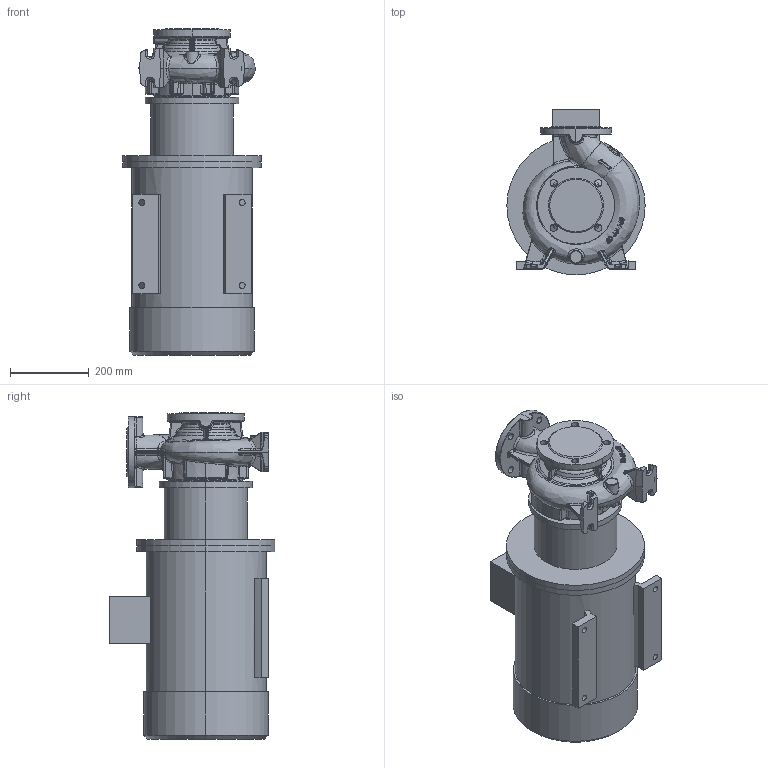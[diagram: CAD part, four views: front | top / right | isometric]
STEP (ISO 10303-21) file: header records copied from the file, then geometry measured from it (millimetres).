
FILE_DESCRIPTION (( 'STEP AP203' ), '1' );
FILE_NAME ('KRM 80-65-160-2-11.STEP', '2026-05-07T09:58:35', ( '' ), ( '' ), 'SwSTEP 2.0', 'SolidWorks 2016', '' );
FILE_SCHEMA (( 'CONFIG_CONTROL_DESIGN' ));
Length unit declared in the file: millimetre
Products named in the file (1): KRM 80-65-160-2-11
Bounding box: 350 x 420 x 827.3 mm (x, y, z)
Volume: 54127204.2 mm3; surface area: 1638749.4 mm2
Topology: 14 solids, 14 shells, 1137 faces, 2722 edges, 1603 vertices
Faces by surface type: bspline 533, cylinder 216, plane 207, torus 104, cone 58, sphere 19
Entity records: 62274 total; most frequent: CARTESIAN_POINT 39904, ORIENTED_EDGE 5386, DIRECTION 3667, EDGE_CURVE 2693, VERTEX_POINT 1603, AXIS2_PLACEMENT_3D 1524, EDGE_LOOP 1192, FACE_OUTER_BOUND 1137
